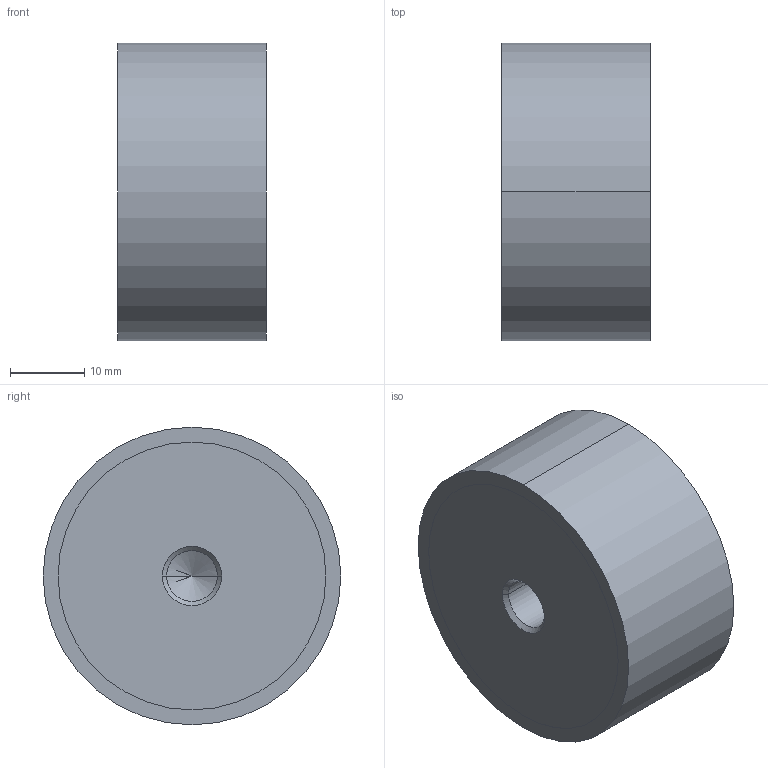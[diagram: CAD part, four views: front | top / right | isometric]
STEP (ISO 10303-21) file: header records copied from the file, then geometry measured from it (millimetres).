
FILE_DESCRIPTION (( 'STEP AP214' ), '1' );
FILE_NAME ('351-40-20-M8-EE-70.step', '2025-07-23T09:40:13', ( '' ), ( '' ), 'SwSTEP 2.0', 'SolidWorks 2022', '' );
FILE_SCHEMA (( 'AUTOMOTIVE_DESIGN' ));
Length unit declared in the file: millimetre
Products named in the file (1): 351-40-20-M8-EE-70
Bounding box: 20 x 40 x 40 mm (x, y, z)
Volume: 24477.9 mm3; surface area: 5367.2 mm2
Topology: 1 solids, 1 shells, 28 faces, 58 edges, 34 vertices
Faces by surface type: cylinder 14, cone 8, plane 6
Entity records: 844 total; most frequent: DIRECTION 144, CARTESIAN_POINT 117, ORIENTED_EDGE 108, AXIS2_PLACEMENT_3D 61, EDGE_CURVE 54, VERTEX_POINT 34, EDGE_LOOP 34, CIRCLE 32
